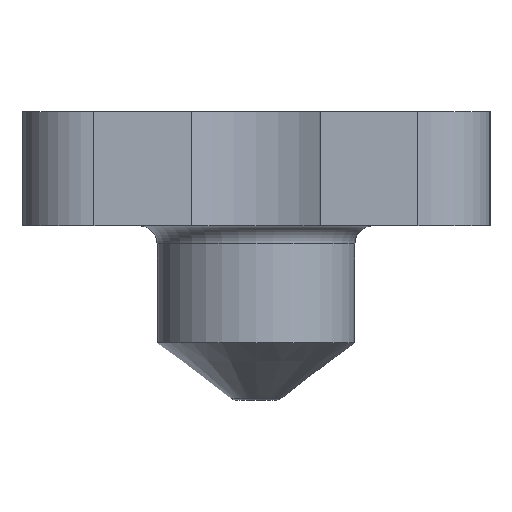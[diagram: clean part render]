
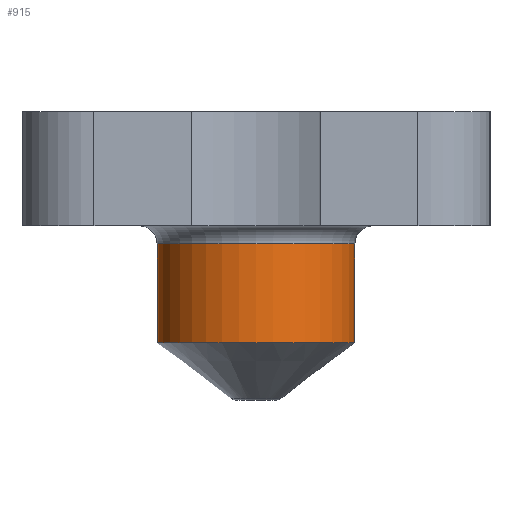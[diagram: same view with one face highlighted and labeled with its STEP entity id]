
A CAD part, left-side view. The second image highlights one B-rep face of the part: STEP entity #915.
In plain terms, the highlighted cylindrical face has radius 5.5 mm (diameter 11 mm), a full revolution.
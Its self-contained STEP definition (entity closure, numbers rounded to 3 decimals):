
#43 = TOROIDAL_SURFACE('',#44,6.5,1.);
#44 = AXIS2_PLACEMENT_3D('',#45,#46,#47);
#45 = CARTESIAN_POINT('',(29.,0.,-4.175));
#46 = DIRECTION('',(0.,0.,1.));
#47 = DIRECTION('',(1.,0.,-0.));
#358 = VERTEX_POINT('',#359);
#359 = CARTESIAN_POINT('',(34.5,0.,-4.175));
#381 = EDGE_CURVE('',#358,#358,#382,.T.);
#382 = SURFACE_CURVE('',#383,(#388,#395),.PCURVE_S1.);
#383 = CIRCLE('',#384,5.5);
#384 = AXIS2_PLACEMENT_3D('',#385,#386,#387);
#385 = CARTESIAN_POINT('',(29.,0.,-4.175));
#386 = DIRECTION('',(0.,0.,1.));
#387 = DIRECTION('',(1.,0.,-0.));
#388 = PCURVE('',#43,#389);
#389 = DEFINITIONAL_REPRESENTATION('',(#390),#394);
#390 = LINE('',#391,#392);
#391 = CARTESIAN_POINT('',(0.,3.142));
#392 = VECTOR('',#393,1.);
#393 = DIRECTION('',(1.,0.));
#394 = ( GEOMETRIC_REPRESENTATION_CONTEXT(2) 
PARAMETRIC_REPRESENTATION_CONTEXT() REPRESENTATION_CONTEXT('2D SPACE',''
  ) );
#395 = PCURVE('',#396,#401);
#396 = CYLINDRICAL_SURFACE('',#397,5.5);
#397 = AXIS2_PLACEMENT_3D('',#398,#399,#400);
#398 = CARTESIAN_POINT('',(29.,0.,-3.175));
#399 = DIRECTION('',(0.,0.,1.));
#400 = DIRECTION('',(1.,0.,0.));
#401 = DEFINITIONAL_REPRESENTATION('',(#402),#406);
#402 = LINE('',#403,#404);
#403 = CARTESIAN_POINT('',(0.,-1.));
#404 = VECTOR('',#405,1.);
#405 = DIRECTION('',(1.,0.));
#406 = ( GEOMETRIC_REPRESENTATION_CONTEXT(2) 
PARAMETRIC_REPRESENTATION_CONTEXT() REPRESENTATION_CONTEXT('2D SPACE',''
  ) );
#915 = ADVANCED_FACE('',(#916),#396,.T.);
#916 = FACE_BOUND('',#917,.T.);
#917 = EDGE_LOOP('',(#918,#941,#967,#968));
#918 = ORIENTED_EDGE('',*,*,#919,.T.);
#919 = EDGE_CURVE('',#358,#920,#922,.T.);
#920 = VERTEX_POINT('',#921);
#921 = CARTESIAN_POINT('',(34.5,0.,-9.675));
#922 = SEAM_CURVE('',#923,(#927,#934),.PCURVE_S1.);
#923 = LINE('',#924,#925);
#924 = CARTESIAN_POINT('',(34.5,0.,-3.175));
#925 = VECTOR('',#926,1.);
#926 = DIRECTION('',(-0.,-0.,-1.));
#927 = PCURVE('',#396,#928);
#928 = DEFINITIONAL_REPRESENTATION('',(#929),#933);
#929 = LINE('',#930,#931);
#930 = CARTESIAN_POINT('',(0.,0.));
#931 = VECTOR('',#932,1.);
#932 = DIRECTION('',(0.,-1.));
#933 = ( GEOMETRIC_REPRESENTATION_CONTEXT(2) 
PARAMETRIC_REPRESENTATION_CONTEXT() REPRESENTATION_CONTEXT('2D SPACE',''
  ) );
#934 = PCURVE('',#396,#935);
#935 = DEFINITIONAL_REPRESENTATION('',(#936),#940);
#936 = LINE('',#937,#938);
#937 = CARTESIAN_POINT('',(6.283,0.));
#938 = VECTOR('',#939,1.);
#939 = DIRECTION('',(0.,-1.));
#940 = ( GEOMETRIC_REPRESENTATION_CONTEXT(2) 
PARAMETRIC_REPRESENTATION_CONTEXT() REPRESENTATION_CONTEXT('2D SPACE',''
  ) );
#941 = ORIENTED_EDGE('',*,*,#942,.T.);
#942 = EDGE_CURVE('',#920,#920,#943,.T.);
#943 = SURFACE_CURVE('',#944,(#949,#956),.PCURVE_S1.);
#944 = CIRCLE('',#945,5.5);
#945 = AXIS2_PLACEMENT_3D('',#946,#947,#948);
#946 = CARTESIAN_POINT('',(29.,0.,-9.675));
#947 = DIRECTION('',(0.,0.,1.));
#948 = DIRECTION('',(1.,0.,0.));
#949 = PCURVE('',#396,#950);
#950 = DEFINITIONAL_REPRESENTATION('',(#951),#955);
#951 = LINE('',#952,#953);
#952 = CARTESIAN_POINT('',(0.,-6.5));
#953 = VECTOR('',#954,1.);
#954 = DIRECTION('',(1.,0.));
#955 = ( GEOMETRIC_REPRESENTATION_CONTEXT(2) 
PARAMETRIC_REPRESENTATION_CONTEXT() REPRESENTATION_CONTEXT('2D SPACE',''
  ) );
#956 = PCURVE('',#957,#962);
#957 = CONICAL_SURFACE('',#958,5.5,0.925);
#958 = AXIS2_PLACEMENT_3D('',#959,#960,#961);
#959 = CARTESIAN_POINT('',(29.,0.,-9.675));
#960 = DIRECTION('',(0.,0.,1.));
#961 = DIRECTION('',(1.,0.,0.));
#962 = DEFINITIONAL_REPRESENTATION('',(#963),#966);
#963 = B_SPLINE_CURVE_WITH_KNOTS('',1,(#964,#965),.UNSPECIFIED.,.F.,.F.,
  (2,2),(0.,6.283),.PIECEWISE_BEZIER_KNOTS.);
#964 = CARTESIAN_POINT('',(0.,0.));
#965 = CARTESIAN_POINT('',(6.283,0.));
#966 = ( GEOMETRIC_REPRESENTATION_CONTEXT(2) 
PARAMETRIC_REPRESENTATION_CONTEXT() REPRESENTATION_CONTEXT('2D SPACE',''
  ) );
#967 = ORIENTED_EDGE('',*,*,#919,.F.);
#968 = ORIENTED_EDGE('',*,*,#381,.F.);
